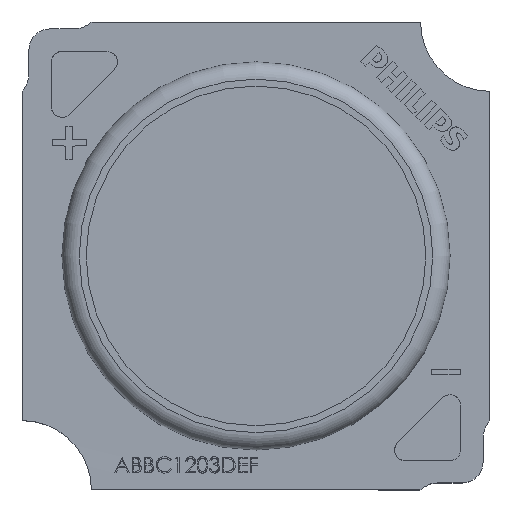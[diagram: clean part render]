
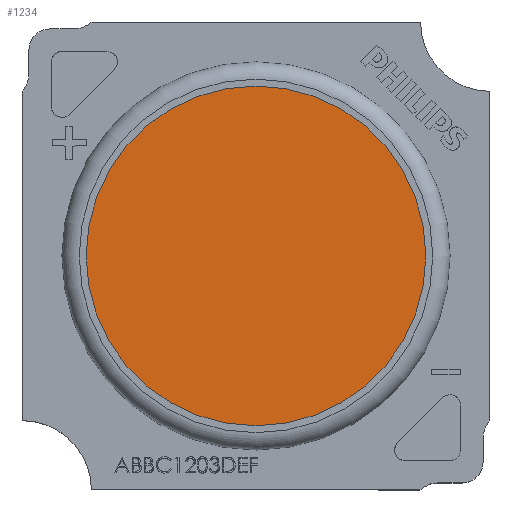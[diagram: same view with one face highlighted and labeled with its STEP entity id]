
A CAD part, top view. The second image highlights one B-rep face of the part: STEP entity #1234.
In plain terms, the highlighted planar face has unit normal (0, 0, 1).
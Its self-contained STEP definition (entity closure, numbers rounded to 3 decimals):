
#754=FACE_OUTER_BOUND('',#2441,.T.);
#1234=ADVANCED_FACE('',(#754),#1638,.T.);
#1638=PLANE('',#10170);
#1661=CIRCLE('',#10169,4.9);
#2441=EDGE_LOOP('',(#5107));
#5107=ORIENTED_EDGE('',*,*,#7334,.T.);
#6001=VERTEX_POINT('',#19954);
#7334=EDGE_CURVE('',#6001,#6001,#1661,.T.);
#10169=AXIS2_PLACEMENT_3D('',#19953,#12272,#12273);
#10170=AXIS2_PLACEMENT_3D('',#19955,#12274,#12275);
#12272=DIRECTION('',(0.,0.,1.));
#12273=DIRECTION('',(1.,0.,0.));
#12274=DIRECTION('',(0.,0.,1.));
#12275=DIRECTION('',(-1.,0.,0.));
#19953=CARTESIAN_POINT('',(6.75,6.75,1.49));
#19954=CARTESIAN_POINT('',(11.65,6.75,1.49));
#19955=CARTESIAN_POINT('',(6.75,6.75,1.49));
